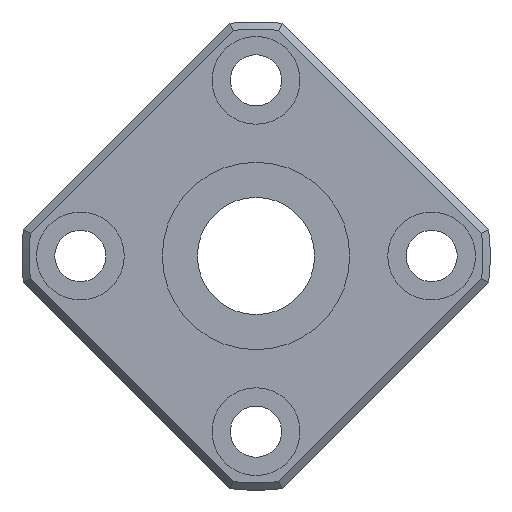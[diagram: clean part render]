
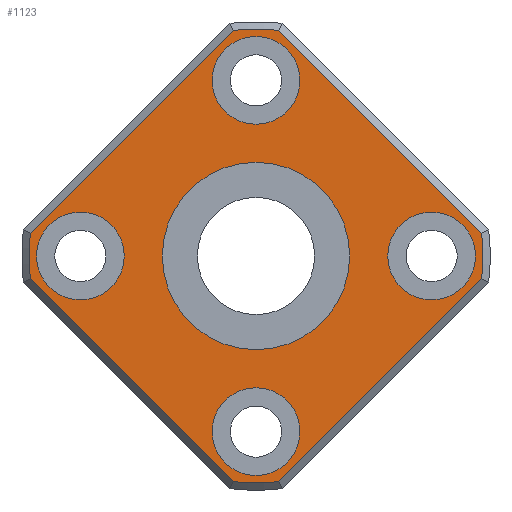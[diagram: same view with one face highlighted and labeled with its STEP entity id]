
A CAD part, left-side view. The second image highlights one B-rep face of the part: STEP entity #1123.
In plain terms, the highlighted planar face has unit normal (-1, 0, 0).
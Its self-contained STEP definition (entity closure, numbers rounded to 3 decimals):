
#699=CARTESIAN_POINT('',(0.0,1.548,-15.422));
#700=VERTEX_POINT('',#699);
#708=CARTESIAN_POINT('',(0.0,15.422,-1.548));
#709=VERTEX_POINT('',#708);
#710=CARTESIAN_POINT('',(0.0,1.548,-15.422));
#711=DIRECTION('',(0.0,0.707,0.707));
#712=VECTOR('',#711,19.621);
#713=LINE('',#710,#712);
#714=EDGE_CURVE('',#700,#709,#713,.T.);
#741=CARTESIAN_POINT('',(0.0,15.422,1.548));
#742=VERTEX_POINT('',#741);
#743=CARTESIAN_POINT('',(0.0,0.0,0.0));
#744=DIRECTION('',(1.0,0.0,0.0));
#745=DIRECTION('',(0.0,0.0,1.0));
#746=AXIS2_PLACEMENT_3D('',#743,#744,#745);
#747=CIRCLE('',#746,15.5);
#748=EDGE_CURVE('',#709,#742,#747,.T.);
#774=CARTESIAN_POINT('',(0.0,1.548,15.422));
#775=VERTEX_POINT('',#774);
#776=CARTESIAN_POINT('',(0.0,15.422,1.548));
#777=DIRECTION('',(0.0,-0.707,0.707));
#778=VECTOR('',#777,19.621);
#779=LINE('',#776,#778);
#780=EDGE_CURVE('',#742,#775,#779,.T.);
#807=CARTESIAN_POINT('',(0.0,-1.548,15.422));
#808=VERTEX_POINT('',#807);
#809=CARTESIAN_POINT('',(0.0,0.0,0.0));
#810=DIRECTION('',(1.0,0.0,0.0));
#811=DIRECTION('',(0.0,0.0,1.0));
#812=AXIS2_PLACEMENT_3D('',#809,#810,#811);
#813=CIRCLE('',#812,15.5);
#814=EDGE_CURVE('',#775,#808,#813,.T.);
#840=CARTESIAN_POINT('',(0.0,-15.422,1.548));
#841=VERTEX_POINT('',#840);
#842=CARTESIAN_POINT('',(0.0,-1.548,15.422));
#843=DIRECTION('',(0.0,-0.707,-0.707));
#844=VECTOR('',#843,19.621);
#845=LINE('',#842,#844);
#846=EDGE_CURVE('',#808,#841,#845,.T.);
#873=CARTESIAN_POINT('',(0.0,-15.422,-1.548));
#874=VERTEX_POINT('',#873);
#875=CARTESIAN_POINT('',(0.0,0.0,0.0));
#876=DIRECTION('',(1.0,0.0,0.0));
#877=DIRECTION('',(0.0,0.0,1.0));
#878=AXIS2_PLACEMENT_3D('',#875,#876,#877);
#879=CIRCLE('',#878,15.5);
#880=EDGE_CURVE('',#841,#874,#879,.T.);
#906=CARTESIAN_POINT('',(0.0,-1.548,-15.422));
#907=VERTEX_POINT('',#906);
#908=CARTESIAN_POINT('',(0.0,-15.422,-1.548));
#909=DIRECTION('',(0.0,0.707,-0.707));
#910=VECTOR('',#909,19.621);
#911=LINE('',#908,#910);
#912=EDGE_CURVE('',#874,#907,#911,.T.);
#937=CARTESIAN_POINT('',(0.0,0.0,0.0));
#938=DIRECTION('',(1.0,0.0,0.0));
#939=DIRECTION('',(0.0,0.0,-1.0));
#940=AXIS2_PLACEMENT_3D('',#937,#938,#939);
#941=CIRCLE('',#940,15.5);
#942=EDGE_CURVE('',#907,#700,#941,.T.);
#1053=CARTESIAN_POINT('',(0.0,0.0,6.95));
#1054=DIRECTION('',(-1.0,0.0,0.0));
#1055=DIRECTION('',(0.0,0.0,1.0));
#1056=AXIS2_PLACEMENT_3D('',#1053,#1054,#1055);
#1057=PLANE('',#1056);
#1058=ORIENTED_EDGE('',*,*,#714,.F.);
#1059=ORIENTED_EDGE('',*,*,#942,.F.);
#1060=ORIENTED_EDGE('',*,*,#912,.F.);
#1061=ORIENTED_EDGE('',*,*,#880,.F.);
#1062=ORIENTED_EDGE('',*,*,#846,.F.);
#1063=ORIENTED_EDGE('',*,*,#814,.F.);
#1064=ORIENTED_EDGE('',*,*,#780,.F.);
#1065=ORIENTED_EDGE('',*,*,#748,.F.);
#1066=EDGE_LOOP('',(#1058,#1059,#1060,#1061,#1062,#1063,#1064,#1065));
#1067=FACE_OUTER_BOUND('',#1066,.T.);
#1068=CARTESIAN_POINT('',(0.0,0.0,6.4));
#1069=VERTEX_POINT('',#1068);
#1070=CARTESIAN_POINT('',(0.0,0.0,0.0));
#1071=DIRECTION('',(-1.0,0.0,0.0));
#1072=DIRECTION('',(0.0,0.0,1.0));
#1073=AXIS2_PLACEMENT_3D('',#1070,#1071,#1072);
#1074=CIRCLE('',#1073,6.4);
#1075=EDGE_CURVE('',#1069,#1069,#1074,.T.);
#1076=ORIENTED_EDGE('',*,*,#1075,.F.);
#1077=EDGE_LOOP('',(#1076));
#1078=FACE_BOUND('',#1077,.T.);
#1079=CARTESIAN_POINT('',(0.0,-9.,0.));
#1080=VERTEX_POINT('',#1079);
#1081=CARTESIAN_POINT('',(0.0,-12.,0.));
#1082=DIRECTION('',(1.0,0.0,0.0));
#1083=DIRECTION('',(0.0,1.0,0.0));
#1084=AXIS2_PLACEMENT_3D('',#1081,#1082,#1083);
#1085=CIRCLE('',#1084,3.);
#1086=EDGE_CURVE('',#1080,#1080,#1085,.T.);
#1087=ORIENTED_EDGE('',*,*,#1086,.T.);
#1088=EDGE_LOOP('',(#1087));
#1089=FACE_BOUND('',#1088,.T.);
#1090=CARTESIAN_POINT('',(0.0,15.,0.));
#1091=VERTEX_POINT('',#1090);
#1092=CARTESIAN_POINT('',(0.0,12.,0.));
#1093=DIRECTION('',(1.0,0.0,0.0));
#1094=DIRECTION('',(0.0,1.0,0.0));
#1095=AXIS2_PLACEMENT_3D('',#1092,#1093,#1094);
#1096=CIRCLE('',#1095,3.);
#1097=EDGE_CURVE('',#1091,#1091,#1096,.T.);
#1098=ORIENTED_EDGE('',*,*,#1097,.T.);
#1099=EDGE_LOOP('',(#1098));
#1100=FACE_BOUND('',#1099,.T.);
#1101=CARTESIAN_POINT('',(0.0,3.,12.));
#1102=VERTEX_POINT('',#1101);
#1103=CARTESIAN_POINT('',(0.0,0.,12.));
#1104=DIRECTION('',(1.0,0.0,0.0));
#1105=DIRECTION('',(0.0,1.0,0.0));
#1106=AXIS2_PLACEMENT_3D('',#1103,#1104,#1105);
#1107=CIRCLE('',#1106,3.);
#1108=EDGE_CURVE('',#1102,#1102,#1107,.T.);
#1109=ORIENTED_EDGE('',*,*,#1108,.T.);
#1110=EDGE_LOOP('',(#1109));
#1111=FACE_BOUND('',#1110,.T.);
#1112=CARTESIAN_POINT('',(0.0,3.,-12.));
#1113=VERTEX_POINT('',#1112);
#1114=CARTESIAN_POINT('',(0.0,0.,-12.));
#1115=DIRECTION('',(1.0,0.0,0.0));
#1116=DIRECTION('',(0.0,1.0,0.0));
#1117=AXIS2_PLACEMENT_3D('',#1114,#1115,#1116);
#1118=CIRCLE('',#1117,3.);
#1119=EDGE_CURVE('',#1113,#1113,#1118,.T.);
#1120=ORIENTED_EDGE('',*,*,#1119,.T.);
#1121=EDGE_LOOP('',(#1120));
#1122=FACE_BOUND('',#1121,.T.);
#1123=ADVANCED_FACE('',(#1067,#1078,#1089,#1100,#1111,#1122),#1057,.T.);
